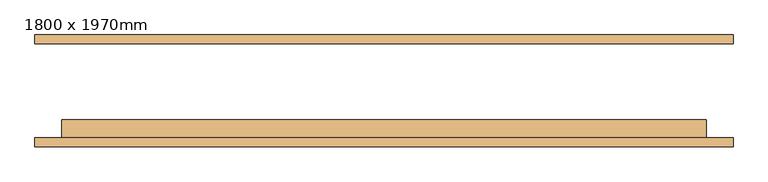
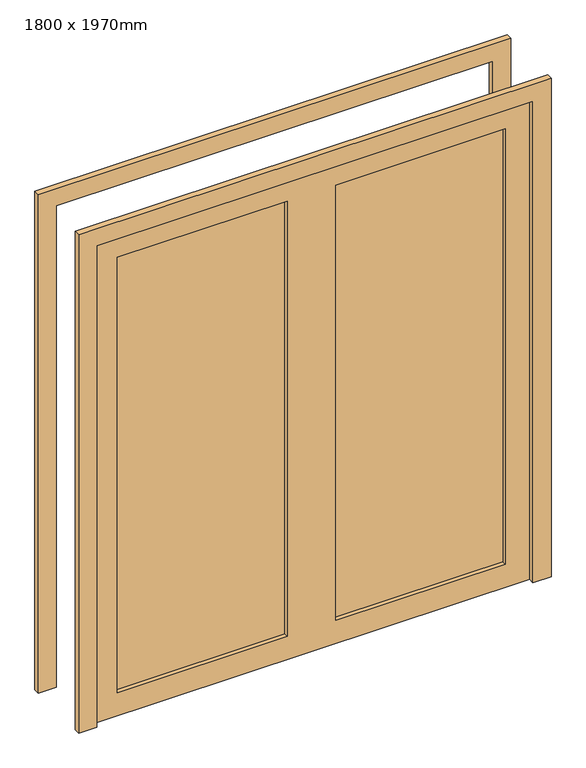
"""IFC4 building model written with IfcOpenShell, lengths in millimetres: door geometry, Dvoukridle prosklene : 1800 x 1970mm."""

from ifc_helpers import new_model, si_unit, frame, origin, place, context, project, spatial, polyline, outline, extrude, source, transform, mapped, element, save


def door_1800_x_1970mm_3c2632e2(model_context):
    return source(origin(), model_context, "Body", "SweptSolid", [
        extrude(outline(polyline([(0.0, 991.0), (2210.0, 991.0), (2210.0, -991.0), (0.0, -991.0), (0.0, -915.0), (2134.0, -915.0), (2134.0, 915.0), (0.0, 915.0), (0.0, 991.0)])), frame((0.0, 131.11875, 0.0), z_axis=(0.0, 1.0, 0.0), x_axis=(0.0, 0.0, 1.0)), (0.0, 0.0, 1.0), 25.0),
        extrude(outline(polyline([(2134.0, 915.0), (0.0, 915.0), (0.0, 991.0), (2210.0, 991.0), (2210.0, -991.0), (0.0, -991.0), (0.0, -915.0), (2134.0, -915.0), (2134.0, 915.0)])), frame((0.0, -160.88125, 0.0), z_axis=(0.0, 1.0, 0.0), x_axis=(0.0, 0.0, 1.0)), (0.0, 0.0, 1.0), 25.0),
        extrude(outline(polyline([(813.4, -110.48125), (813.4, -117.625), (101.6, -117.625), (101.6, -110.48125), (813.4, -110.48125)])), frame((0.0, 0.0, 102.0), z_axis=(0.0, 0.0, 1.0), x_axis=(1.0, 0.0, 0.0)), (0.0, 0.0, 1.0), 1930.0),
        extrude(outline(polyline([(-101.6, -110.48125), (-101.6, -117.625), (-813.4, -117.625), (-813.4, -110.48125), (-101.6, -110.48125)])), frame((0.0, 0.0, 102.0), z_axis=(0.0, 0.0, 1.0), x_axis=(1.0, 0.0, 0.0)), (0.0, 0.0, 1.0), 1930.0),
        extrude(outline(polyline([(2134.0, 915.0), (2134.0, -915.0), (0.0, -915.0), (0.0, 915.0), (2134.0, 915.0)]), holes=[polyline([(2032.0, -101.6), (102.0, -101.6), (102.0, -813.4), (2032.0, -813.4), (2032.0, -101.6)]), polyline([(2032.0, 813.4), (102.0, 813.4), (102.0, 101.6), (2032.0, 101.6), (2032.0, 813.4)])]), frame((0.0, -135.88125, 0.0), z_axis=(0.0, 1.0, 0.0), x_axis=(0.0, 0.0, 1.0)), (0.0, 0.0, 1.0), 51.0),
    ])


if __name__ == "__main__":
    model = new_model("IFC4")
    model_context = context("Model", 3, world=origin())
    ifc_project = project(units=[si_unit("LENGTHUNIT", "METRE", prefix="MILLI")], contexts=[model_context])
    site = spatial("IfcSite", under=ifc_project)
    building = spatial("IfcBuilding", under=site)
    placement = place(None, origin())
    door_1800_x_1970mm_shape = door_1800_x_1970mm_3c2632e2(model_context)
    element("IfcDoor", 1, ObjectType="Dvoukridle prosklene : 1800 x 1970mm", at=placement, inside=building, context=model_context, shape_type="MappedRepresentation", body=[
        mapped(door_1800_x_1970mm_shape, transform((0.0, 0.0, 0.0), x_axis=(1.0, 0.0, 0.0), y_axis=(0.0, 1.0, 0.0), z_axis=(0.0, 0.0, 1.0))),
    ])
    save(model, "model.ifc")
